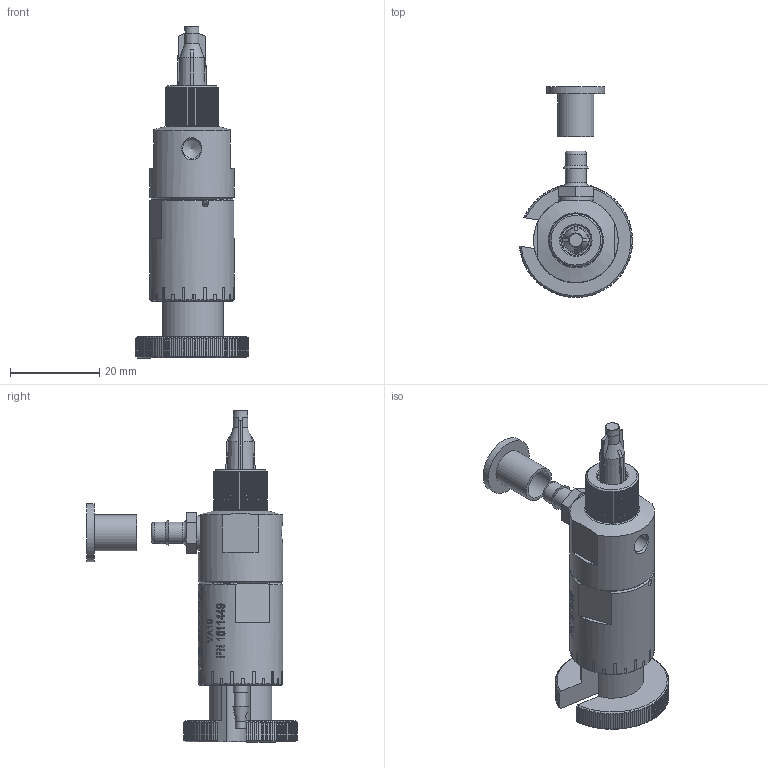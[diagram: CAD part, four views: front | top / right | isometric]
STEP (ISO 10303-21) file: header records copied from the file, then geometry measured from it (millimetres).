
FILE_DESCRIPTION((''),'2;1');
FILE_NAME('C:\1 WIP\Website Data\1611449 VA10 Micro Diaphragm Valve Assembly.stp','2012-04-11T07:56:00',('patch'),(''),'Autodesk Inventor 2012','Autodesk Inventor 2012','');
FILE_SCHEMA(('AUTOMOTIVE_DESIGN { 1 0 10303 214 1 1 1 1 }'));
Length unit declared in the file: inch
Products named in the file (11): 1611449 VA10 Micro Diaphragm Valve Assembly.iam (LevelofDetail1); 8902613 VA10 Micro Diaphragm Valve Fluid Body; 8902610 VA10 Micro Diaphragm Valve Tip Retaining Nut; 8903013 VA10 Micro Diaphragm Valve Air Cylinder Body With Artwork; 8902602 VA10 Micro Diaphragm Valve Piston; 8902608 VA10 Micro Diaphragm Valve Tamper Resistant Stroke Control; 8902611 VA10 Micro Diaphragm Valve Tamper Resistant Stroke Control Key; 8902612 Dowel Pin 0.0625 x 0.187 Long; 8903184 Barbed Fitting Hose Connector, 0.25 Tube x #10-32, 316SS; 8903185 Flanged Locking Sleeve, Nylon; Needle
Assembly tree (11 placements, depth 2):
  1611449 VA10 Micro Diaphragm Valve Assembly.iam (LevelofDetail1)
    8902613 VA10 Micro Diaphragm Valve Fluid Body
    8902610 VA10 Micro Diaphragm Valve Tip Retaining Nut
    8903013 VA10 Micro Diaphragm Valve Air Cylinder Body With Artwork
    8902602 VA10 Micro Diaphragm Valve Piston
    8902608 VA10 Micro Diaphragm Valve Tamper Resistant Stroke Control
    8902611 VA10 Micro Diaphragm Valve Tamper Resistant Stroke Control Key
    8902612 Dowel Pin 0.0625 x 0.187 Long  x2
    8903184 Barbed Fitting Hose Connector, 0.25 Tube x #10-32, 316SS
    8903185 Flanged Locking Sleeve, Nylon
    Needle
Bounding box: 25.34 x 47.09 x 74.27 mm (x, y, z)
Volume: 12764.5 mm3; surface area: 12644.6 mm2
Topology: 11 solids, 11 shells, 1293 faces, 3485 edges, 2298 vertices
Faces by surface type: plane 803, cylinder 302, bspline 90, cone 71, torus 26, sphere 1
Full cylindrical faces by diameter (mm): 1.245 x1, 1.372 x2, 1.499 x2, 1.575 x2, 1.588 x4, 1.6 x1, 1.753 x1, 1.778 x2, 1.981 x2, 2.083 x2, 2.286 x1, 2.819 x2, 3.175 x1, 3.302 x1, 3.861 x1, 3.886 x1, 3.988 x1, 4.166 x1, 4.75 x1, 4.775 x2, 4.826 x1, 6.655 x1, 6.68 x1, 6.756 x1, 6.858 x1, 7.188 x1, 7.722 x1, 8.026 x1, 8.103 x2, 8.128 x1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
Entity records: 44537 total; most frequent: CARTESIAN_POINT 12919, ORIENTED_EDGE 6572, DIRECTION 6064, EDGE_CURVE 3286, VERTEX_POINT 2253, AXIS2_PLACEMENT_3D 2096, VECTOR 1872, LINE 1872
